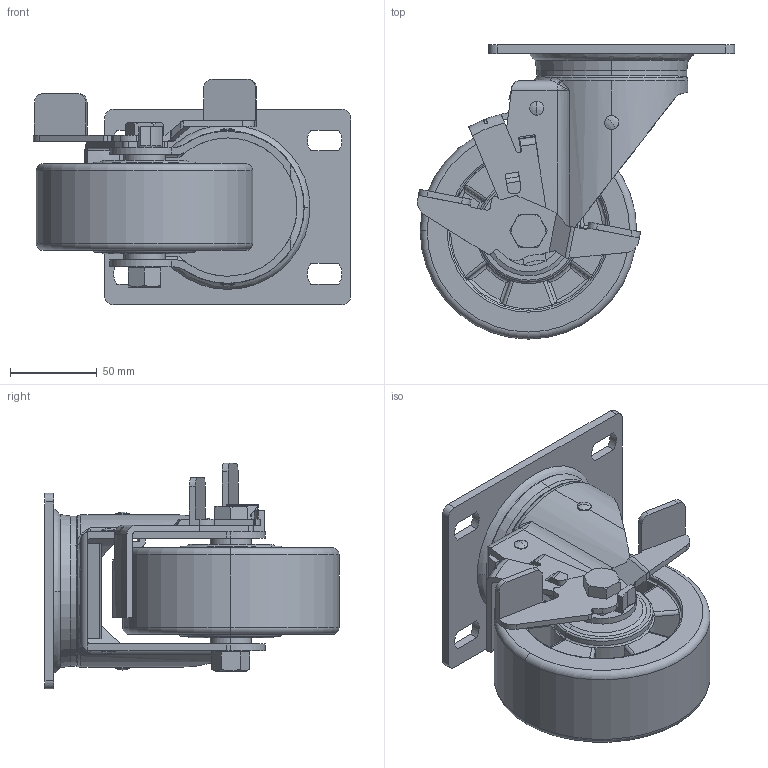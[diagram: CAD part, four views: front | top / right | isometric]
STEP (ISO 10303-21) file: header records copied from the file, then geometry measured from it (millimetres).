
FILE_DESCRIPTION (( 'STEP AP214' ), '1' );
FILE_NAME ('77125C-785-86A す階耜价.STEP', '2019-12-24T23:55:23', ( 'Owner' ), ( 'Organization' ), 'SwSTEP 2.0', 'SolidWorks 2014', '' );
FILE_SCHEMA (( 'AUTOMOTIVE_DESIGN' ));
Length unit declared in the file: millimetre
Products named in the file (10): 685-11a; 5渡耜价; 7710-502A 耜价; 680-01a 侐源; 750-34a; 785-86AB; 750-33a; 穩隊芛; 77125C-785-86A す階耜价; 705-15 价陬え
Assembly tree (12 placements, depth 3):
  77125C-785-86A す階耜价
    5渡耜价
      680-01a 侐源
      685-11a
      穩隊芛  x4
      705-15 价陬え
      7710-502A 耜价
      750-33a
      750-34a
    785-86AB
Bounding box: 183.26 x 169.87 x 130.5 mm (x, y, z)
Volume: 725969.9 mm3; surface area: 187157.6 mm2
Topology: 10 solids, 11 shells, 665 faces, 1822 edges, 1196 vertices
Faces by surface type: cylinder 259, plane 245, bspline 81, torus 48, cone 24, sphere 8
Entity records: 149047 total; most frequent: CARTESIAN_POINT 132972, ORIENTED_EDGE 3566, DIRECTION 2866, EDGE_CURVE 1792, VERTEX_POINT 1175, AXIS2_PLACEMENT_3D 1001, LINE 864, VECTOR 864
